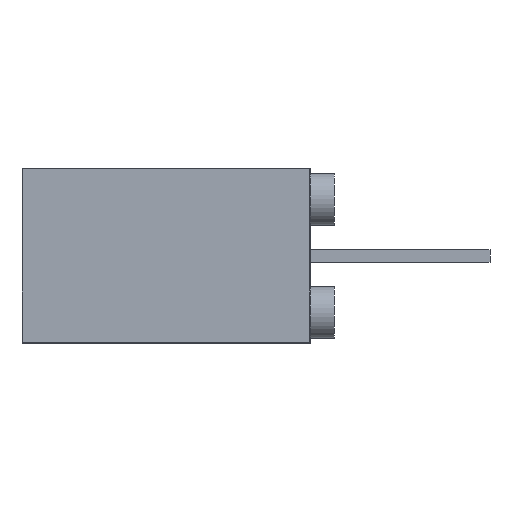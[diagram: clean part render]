
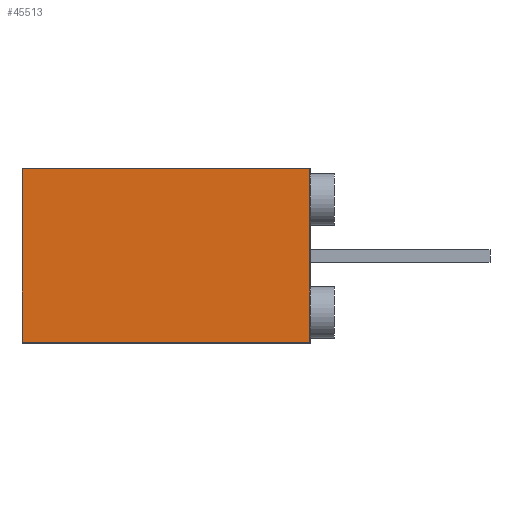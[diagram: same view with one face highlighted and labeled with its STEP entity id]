
A CAD part, left-side view. The second image highlights one B-rep face of the part: STEP entity #45513.
In plain terms, the highlighted planar face has unit normal (-1, 0.004, 0).
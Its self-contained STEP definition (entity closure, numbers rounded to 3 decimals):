
#45413 = EDGE_CURVE ( 'NONE', #45872, #45423, #56739, .T. ) ;
#45423 = VERTEX_POINT ( 'NONE', #56792 ) ;
#45470 = ORIENTED_EDGE ( 'NONE', *, *, #45413, .T. ) ;
#45472 = ORIENTED_EDGE ( 'NONE', *, *, #45490, .T. ) ;
#45490 = EDGE_CURVE ( 'NONE', #45423, #45850, #56878, .T. ) ;
#45493 = ORIENTED_EDGE ( 'NONE', *, *, #45854, .T. ) ;
#45503 = ORIENTED_EDGE ( 'NONE', *, *, #45841, .T. ) ;
#45513 = ADVANCED_FACE ( 'NONE', ( #56893 ), #56932, .T. ) ;
#45517 = EDGE_LOOP ( 'NONE', ( #45493, #45503, #45470, #45472 ) ) ;
#45841 = EDGE_CURVE ( 'NONE', #45848, #45872, #57557, .T. ) ;
#45848 = VERTEX_POINT ( 'NONE', #57548 ) ;
#45850 = VERTEX_POINT ( 'NONE', #57606 ) ;
#45854 = EDGE_CURVE ( 'NONE', #45850, #45848, #57600, .T. ) ;
#45872 = VERTEX_POINT ( 'NONE', #57613 ) ;
#56452 = DIRECTION ( 'NONE',  ( 0.004, 1., 0. ) ) ;
#56737 = VECTOR ( 'NONE', #56452, 1000. ) ;
#56738 = CARTESIAN_POINT ( 'NONE',  ( -7.523, 6.094, 1.85 ) ) ;
#56739 = LINE ( 'NONE', #56738, #56737 ) ;
#56792 = CARTESIAN_POINT ( 'NONE',  ( -7.523, 6.094, 1.85 ) ) ;
#56875 = DIRECTION ( 'NONE',  ( 0., 0., -1. ) ) ;
#56876 = VECTOR ( 'NONE', #56875, 1000. ) ;
#56877 = CARTESIAN_POINT ( 'NONE',  ( -7.523, 6.094, -1.823 ) ) ;
#56878 = LINE ( 'NONE', #56877, #56876 ) ;
#56893 = FACE_OUTER_BOUND ( 'NONE', #45517, .T. ) ;
#56926 = DIRECTION ( 'NONE',  ( -0.004, -1., 0. ) ) ;
#56927 = DIRECTION ( 'NONE',  ( -1., 0.004, 0. ) ) ;
#56928 = CARTESIAN_POINT ( 'NONE',  ( -7.55, 0.002, -1.823 ) ) ;
#56929 = AXIS2_PLACEMENT_3D ( 'NONE', #56928, #56927, #56926 ) ;
#56932 = PLANE ( 'NONE',  #56929 ) ;
#57548 = CARTESIAN_POINT ( 'NONE',  ( -7.55, 0.002, -1.823 ) ) ;
#57554 = DIRECTION ( 'NONE',  ( 0., 0., 1. ) ) ;
#57555 = VECTOR ( 'NONE', #57554, 1000. ) ;
#57556 = CARTESIAN_POINT ( 'NONE',  ( -7.55, 0.002, -1.823 ) ) ;
#57557 = LINE ( 'NONE', #57556, #57555 ) ;
#57597 = DIRECTION ( 'NONE',  ( -0.004, -1., 0. ) ) ;
#57598 = VECTOR ( 'NONE', #57597, 1000. ) ;
#57599 = CARTESIAN_POINT ( 'NONE',  ( -7.523, 6.094, -1.823 ) ) ;
#57600 = LINE ( 'NONE', #57599, #57598 ) ;
#57606 = CARTESIAN_POINT ( 'NONE',  ( -7.523, 6.094, -1.823 ) ) ;
#57613 = CARTESIAN_POINT ( 'NONE',  ( -7.55, 0.002, 1.85 ) ) ;
